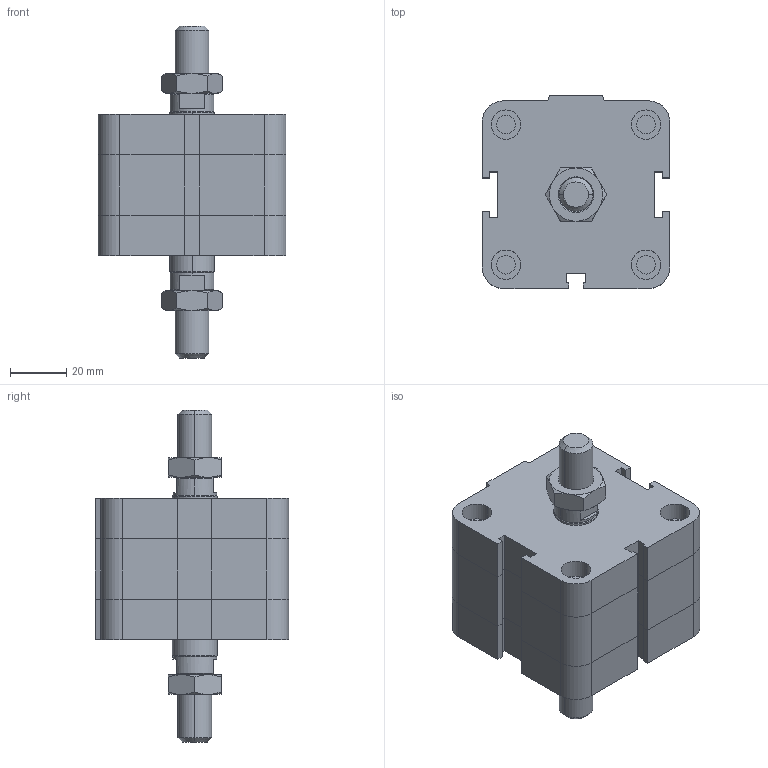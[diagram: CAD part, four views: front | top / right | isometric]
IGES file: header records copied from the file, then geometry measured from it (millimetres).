
Global section: file name: No Iges File Name specified; native system: Autodesk Inventor 2009; preprocessor: AutoDesk Inventor Iges Exporter R2009; author: maffial1; date: 20090420.200930; units: millimetre
Bounding box: 67 x 69 x 118.5 mm (x, y, z)
Volume: 219331.7 mm3; surface area: 38531.9 mm2
Topology: 4 solids, 4 shells, 260 faces, 574 edges, 342 vertices
Faces by surface type: plane 129, bspline 51, cone 38, cylinder 22, revolution 20
